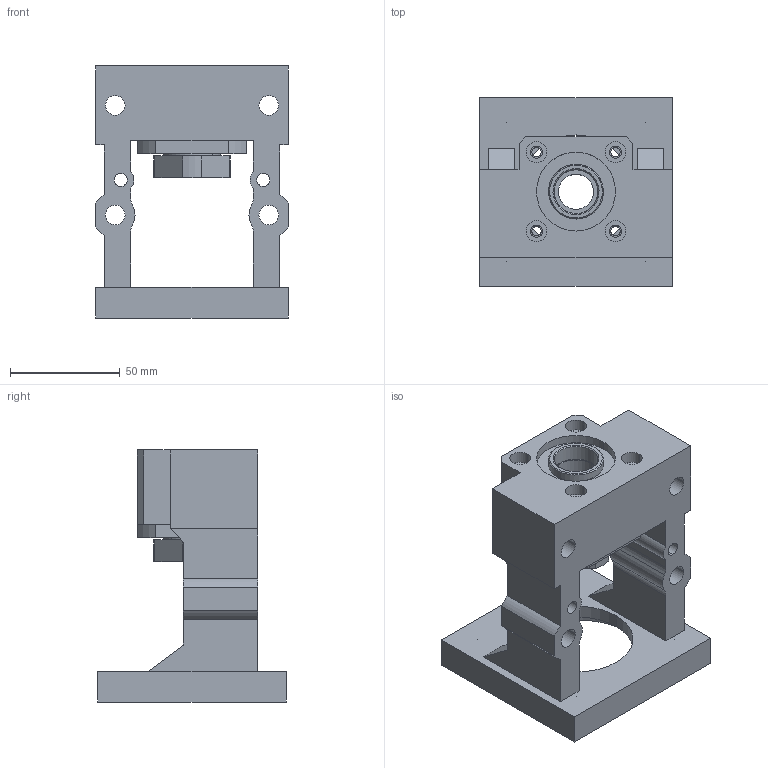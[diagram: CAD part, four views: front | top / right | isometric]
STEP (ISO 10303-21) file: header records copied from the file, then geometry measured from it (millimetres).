
FILE_DESCRIPTION((''),'2;1');
FILE_NAME('M80E-AK20-C_ASM','2019-12-30T',('ASUS'),(''),'PRO/ENGINEER BY PARAMETRIC TECHNOLOGY CORPORATION, 2010280','PRO/ENGINEER BY PARAMETRIC TECHNOLOGY CORPORATION, 2010280','');
FILE_SCHEMA(('CONFIG_CONTROL_DESIGN'));
Length unit declared in the file: millimetre
Products named in the file (6): MBCA20-E-02; MBCA20-E-04; MBCA20-E-03; MANIFOLD_SOLID_BREP_454; MBCA20-E_ASM; M80E-AK20-C_ASM
Assembly tree (6 placements, depth 3):
  M80E-AK20-C_ASM
    MBCA20-E_ASM
      MBCA20-E-02  x2
      MBCA20-E-04
      MBCA20-E-03
      MANIFOLD_SOLID_BREP_454
Bounding box: 88 x 86 x 115 mm (x, y, z)
Volume: 255902.7 mm3; surface area: 70033.4 mm2
Topology: 5 solids, 5 shells, 199 faces, 514 edges, 336 vertices
Faces by surface type: cylinder 106, plane 69, cone 24
Entity records: 6125 total; most frequent: CARTESIAN_POINT 1128, DIRECTION 1096, ORIENTED_EDGE 956, EDGE_CURVE 478, AXIS2_PLACEMENT_3D 424, VERTEX_POINT 320, VECTOR 248, LINE 248
